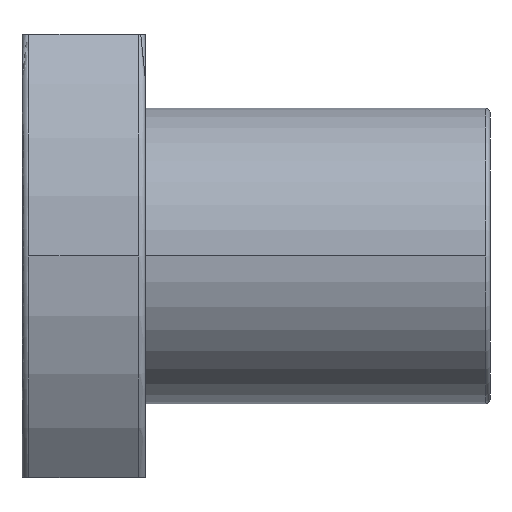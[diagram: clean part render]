
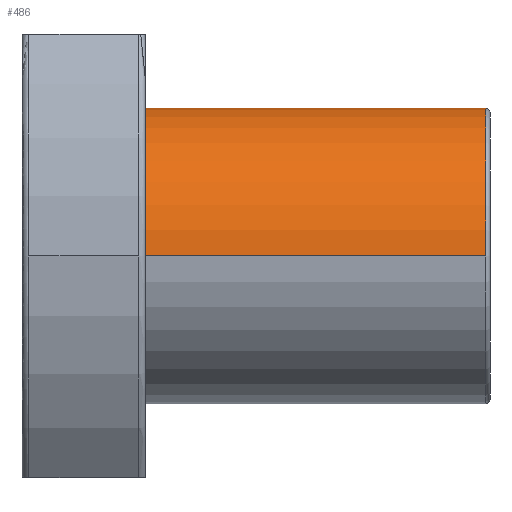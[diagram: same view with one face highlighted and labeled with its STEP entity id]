
A CAD part, front view. The second image highlights one B-rep face of the part: STEP entity #486.
In plain terms, the highlighted cylindrical face has radius 6 mm (diameter 12 mm), a partial arc.
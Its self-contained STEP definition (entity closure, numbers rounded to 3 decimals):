
#335 = TOROIDAL_SURFACE('',#336,5.82,0.18);
#336 = AXIS2_PLACEMENT_3D('',#337,#338,#339);
#337 = CARTESIAN_POINT('',(18.82,0.,0.));
#338 = DIRECTION('',(1.,0.,0.));
#339 = DIRECTION('',(0.,0.,-1.));
#347 = TOROIDAL_SURFACE('',#348,5.82,0.18);
#348 = AXIS2_PLACEMENT_3D('',#349,#350,#351);
#349 = CARTESIAN_POINT('',(18.82,0.,0.));
#350 = DIRECTION('',(1.,0.,0.));
#351 = DIRECTION('',(0.,0.,-1.));
#360 = VERTEX_POINT('',#361);
#361 = CARTESIAN_POINT('',(18.82,6.,0.));
#376 = CYLINDRICAL_SURFACE('',#377,6.);
#377 = AXIS2_PLACEMENT_3D('',#378,#379,#380);
#378 = CARTESIAN_POINT('',(11.91,0.,0.));
#379 = DIRECTION('',(1.,0.,0.));
#380 = DIRECTION('',(-0.,1.,0.));
#388 = EDGE_CURVE('',#360,#389,#391,.T.);
#389 = VERTEX_POINT('',#390);
#390 = CARTESIAN_POINT('',(18.82,0.,6.));
#391 = SURFACE_CURVE('',#392,(#397,#404),.PCURVE_S1.);
#392 = CIRCLE('',#393,6.);
#393 = AXIS2_PLACEMENT_3D('',#394,#395,#396);
#394 = CARTESIAN_POINT('',(18.82,0.,0.));
#395 = DIRECTION('',(1.,0.,0.));
#396 = DIRECTION('',(-0.,1.,0.));
#397 = PCURVE('',#335,#398);
#398 = DEFINITIONAL_REPRESENTATION('',(#399),#403);
#399 = LINE('',#400,#401);
#400 = CARTESIAN_POINT('',(1.571,0.));
#401 = VECTOR('',#402,1.);
#402 = DIRECTION('',(1.,0.));
#403 = ( GEOMETRIC_REPRESENTATION_CONTEXT(2) 
PARAMETRIC_REPRESENTATION_CONTEXT() REPRESENTATION_CONTEXT('2D SPACE',''
  ) );
#404 = PCURVE('',#405,#410);
#405 = CYLINDRICAL_SURFACE('',#406,6.);
#406 = AXIS2_PLACEMENT_3D('',#407,#408,#409);
#407 = CARTESIAN_POINT('',(11.91,0.,0.));
#408 = DIRECTION('',(1.,0.,0.));
#409 = DIRECTION('',(-0.,1.,0.));
#410 = DEFINITIONAL_REPRESENTATION('',(#411),#415);
#411 = LINE('',#412,#413);
#412 = CARTESIAN_POINT('',(0.,6.91));
#413 = VECTOR('',#414,1.);
#414 = DIRECTION('',(1.,0.));
#415 = ( GEOMETRIC_REPRESENTATION_CONTEXT(2) 
PARAMETRIC_REPRESENTATION_CONTEXT() REPRESENTATION_CONTEXT('2D SPACE',''
  ) );
#486 = ADVANCED_FACE('',(#487),#405,.T.);
#487 = FACE_BOUND('',#488,.T.);
#488 = EDGE_LOOP('',(#489,#512,#541,#564,#586));
#489 = ORIENTED_EDGE('',*,*,#490,.F.);
#490 = EDGE_CURVE('',#491,#360,#493,.T.);
#491 = VERTEX_POINT('',#492);
#492 = CARTESIAN_POINT('',(5.,6.,0.));
#493 = SURFACE_CURVE('',#494,(#498,#505),.PCURVE_S1.);
#494 = LINE('',#495,#496);
#495 = CARTESIAN_POINT('',(11.91,6.,0.));
#496 = VECTOR('',#497,1.);
#497 = DIRECTION('',(1.,0.,0.));
#498 = PCURVE('',#405,#499);
#499 = DEFINITIONAL_REPRESENTATION('',(#500),#504);
#500 = LINE('',#501,#502);
#501 = CARTESIAN_POINT('',(0.,0.));
#502 = VECTOR('',#503,1.);
#503 = DIRECTION('',(0.,1.));
#504 = ( GEOMETRIC_REPRESENTATION_CONTEXT(2) 
PARAMETRIC_REPRESENTATION_CONTEXT() REPRESENTATION_CONTEXT('2D SPACE',''
  ) );
#505 = PCURVE('',#376,#506);
#506 = DEFINITIONAL_REPRESENTATION('',(#507),#511);
#507 = LINE('',#508,#509);
#508 = CARTESIAN_POINT('',(6.283,0.));
#509 = VECTOR('',#510,1.);
#510 = DIRECTION('',(0.,1.));
#511 = ( GEOMETRIC_REPRESENTATION_CONTEXT(2) 
PARAMETRIC_REPRESENTATION_CONTEXT() REPRESENTATION_CONTEXT('2D SPACE',''
  ) );
#512 = ORIENTED_EDGE('',*,*,#513,.T.);
#513 = EDGE_CURVE('',#491,#514,#516,.T.);
#514 = VERTEX_POINT('',#515);
#515 = CARTESIAN_POINT('',(5.,-6.,0.));
#516 = SURFACE_CURVE('',#517,(#522,#529),.PCURVE_S1.);
#517 = CIRCLE('',#518,6.);
#518 = AXIS2_PLACEMENT_3D('',#519,#520,#521);
#519 = CARTESIAN_POINT('',(5.,0.,0.));
#520 = DIRECTION('',(1.,0.,0.));
#521 = DIRECTION('',(-0.,1.,0.));
#522 = PCURVE('',#405,#523);
#523 = DEFINITIONAL_REPRESENTATION('',(#524),#528);
#524 = LINE('',#525,#526);
#525 = CARTESIAN_POINT('',(0.,-6.91));
#526 = VECTOR('',#527,1.);
#527 = DIRECTION('',(1.,0.));
#528 = ( GEOMETRIC_REPRESENTATION_CONTEXT(2) 
PARAMETRIC_REPRESENTATION_CONTEXT() REPRESENTATION_CONTEXT('2D SPACE',''
  ) );
#529 = PCURVE('',#530,#535);
#530 = PLANE('',#531);
#531 = AXIS2_PLACEMENT_3D('',#532,#533,#534);
#532 = CARTESIAN_POINT('',(5.,9.86,0.));
#533 = DIRECTION('',(1.,0.,0.));
#534 = DIRECTION('',(0.,1.,0.));
#535 = DEFINITIONAL_REPRESENTATION('',(#536),#540);
#536 = CIRCLE('',#537,6.);
#537 = AXIS2_PLACEMENT_2D('',#538,#539);
#538 = CARTESIAN_POINT('',(-9.86,0.));
#539 = DIRECTION('',(1.,0.));
#540 = ( GEOMETRIC_REPRESENTATION_CONTEXT(2) 
PARAMETRIC_REPRESENTATION_CONTEXT() REPRESENTATION_CONTEXT('2D SPACE',''
  ) );
#541 = ORIENTED_EDGE('',*,*,#542,.F.);
#542 = EDGE_CURVE('',#543,#514,#545,.T.);
#543 = VERTEX_POINT('',#544);
#544 = CARTESIAN_POINT('',(18.82,-6.,0.));
#545 = SURFACE_CURVE('',#546,(#550,#557),.PCURVE_S1.);
#546 = LINE('',#547,#548);
#547 = CARTESIAN_POINT('',(11.91,-6.,0.));
#548 = VECTOR('',#549,1.);
#549 = DIRECTION('',(-1.,-0.,-0.));
#550 = PCURVE('',#405,#551);
#551 = DEFINITIONAL_REPRESENTATION('',(#552),#556);
#552 = LINE('',#553,#554);
#553 = CARTESIAN_POINT('',(3.142,0.));
#554 = VECTOR('',#555,1.);
#555 = DIRECTION('',(0.,-1.));
#556 = ( GEOMETRIC_REPRESENTATION_CONTEXT(2) 
PARAMETRIC_REPRESENTATION_CONTEXT() REPRESENTATION_CONTEXT('2D SPACE',''
  ) );
#557 = PCURVE('',#376,#558);
#558 = DEFINITIONAL_REPRESENTATION('',(#559),#563);
#559 = LINE('',#560,#561);
#560 = CARTESIAN_POINT('',(3.142,0.));
#561 = VECTOR('',#562,1.);
#562 = DIRECTION('',(0.,-1.));
#563 = ( GEOMETRIC_REPRESENTATION_CONTEXT(2) 
PARAMETRIC_REPRESENTATION_CONTEXT() REPRESENTATION_CONTEXT('2D SPACE',''
  ) );
#564 = ORIENTED_EDGE('',*,*,#565,.F.);
#565 = EDGE_CURVE('',#389,#543,#566,.T.);
#566 = SURFACE_CURVE('',#567,(#572,#579),.PCURVE_S1.);
#567 = CIRCLE('',#568,6.);
#568 = AXIS2_PLACEMENT_3D('',#569,#570,#571);
#569 = CARTESIAN_POINT('',(18.82,0.,0.));
#570 = DIRECTION('',(1.,0.,0.));
#571 = DIRECTION('',(-0.,1.,0.));
#572 = PCURVE('',#405,#573);
#573 = DEFINITIONAL_REPRESENTATION('',(#574),#578);
#574 = LINE('',#575,#576);
#575 = CARTESIAN_POINT('',(0.,6.91));
#576 = VECTOR('',#577,1.);
#577 = DIRECTION('',(1.,0.));
#578 = ( GEOMETRIC_REPRESENTATION_CONTEXT(2) 
PARAMETRIC_REPRESENTATION_CONTEXT() REPRESENTATION_CONTEXT('2D SPACE',''
  ) );
#579 = PCURVE('',#347,#580);
#580 = DEFINITIONAL_REPRESENTATION('',(#581),#585);
#581 = LINE('',#582,#583);
#582 = CARTESIAN_POINT('',(1.571,0.));
#583 = VECTOR('',#584,1.);
#584 = DIRECTION('',(1.,0.));
#585 = ( GEOMETRIC_REPRESENTATION_CONTEXT(2) 
PARAMETRIC_REPRESENTATION_CONTEXT() REPRESENTATION_CONTEXT('2D SPACE',''
  ) );
#586 = ORIENTED_EDGE('',*,*,#388,.F.);
